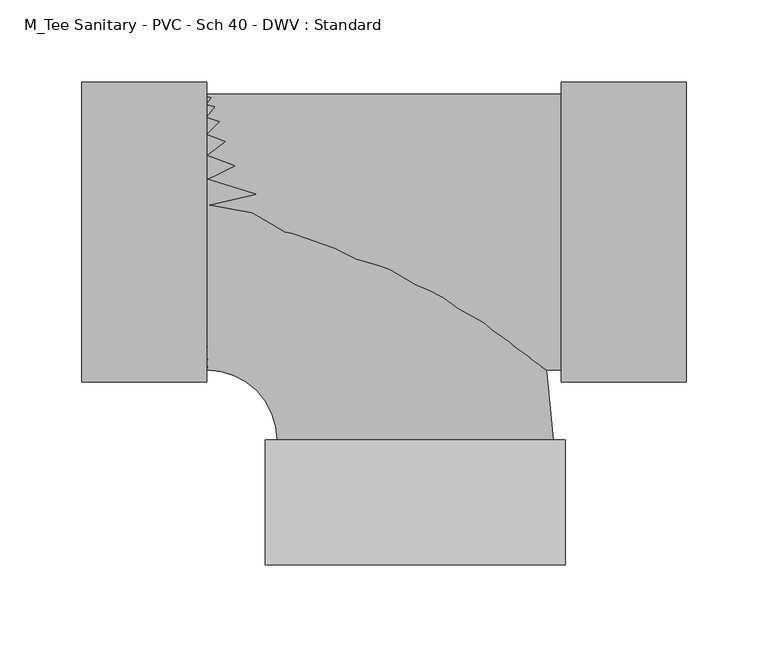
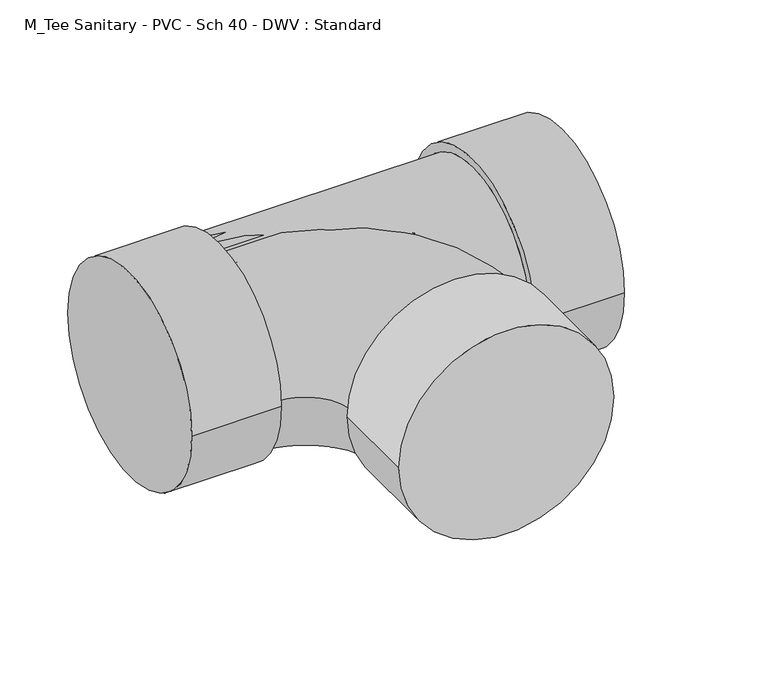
"""IFC4 building model written with IfcOpenShell, lengths in millimetres: pipe fitting geometry, M_Tee Sanitary - PVC - Sch 40 - DWV : Standard."""

from ifc_helpers import new_model, si_unit, point, frame, origin, place, context, project, spatial, circle_curve, ellipse_curve, trimmed, source, transform, mapped, element, save
from ifc_brep_helpers import plane_surface, cylinder_surface, revolved_surface, advanced_brep


def m_tee_sanitary_pvc_sch_40_dwv_standard_f4612a07(model_context):
    return source(origin(), model_context, "Body", "AdvancedBrep", [
        advanced_brep(
        [(-127.0, -84.1375, 0.0), (-127.0, 84.1375, 0.0), (-84.1375, -127.0, 0.0), (84.1375, -127.0, 0.0), (91.5543, -203.2, 0.0), (-91.5543, -203.2, 0.0), (91.5543, -127.0, 0.0), (-91.5543, -127.0, 0.0)],
        [
            (0, 1, circle_curve(frame((-127.0, 0.0, 0.0), z_axis=(-1.0, 0.0, 0.0), x_axis=(0.0, 1.0, 0.0)), 84.1375)),
            (1, 0, circle_curve(frame((-127.0, 0.0, 0.0), z_axis=(-1.0, 0.0, 0.0), x_axis=(0.0, 1.0, 0.0)), 84.1375)),
            (0, 2, circle_curve(frame((-127.0, -127.0, 0.0), z_axis=(0.0, 0.0, -1.0), x_axis=(0.0, 1.0, 0.0)), 42.8625)),
            (2, 3, circle_curve(frame((0.0, -127.0, 0.0), z_axis=(-1.0287938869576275e-12, 1.0, 0.0), x_axis=(1.0, 1.0287938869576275e-12, 0.0)), 84.1375)),
            (3, 1, circle_curve(frame((-127.0, -127.0, 0.0), z_axis=(0.0, 0.0, 1.0), x_axis=(0.0, 1.0, 0.0)), 211.1375)),
            (3, 2, circle_curve(frame((0.0, -127.0, 0.0), z_axis=(-1.0285718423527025e-12, 1.0, 0.0), x_axis=(1.0, 1.0285718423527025e-12, 0.0)), 84.1375)),
            (4, 5, circle_curve(frame((0.0, -203.2, 0.0), z_axis=(0.0, -1.0, 0.0), x_axis=(-1.0, 0.0, 0.0)), 91.5543)),
            (5, 4, circle_curve(frame((0.0, -203.2, 0.0), z_axis=(0.0, -1.0, 0.0), x_axis=(-1.0, 0.0, 0.0)), 91.5543)),
            (6, 7, circle_curve(frame((0.0, -127.0, 0.0), z_axis=(0.0, 1.0, 0.0), x_axis=(-1.0, 0.0, 0.0)), 91.5543)),
            (7, 6, circle_curve(frame((0.0, -127.0, 0.0), z_axis=(0.0, 1.0, 0.0), x_axis=(-1.0, 0.0, 0.0)), 91.5543)),
            (4, 6),
            (7, 5),
        ],
        [
            plane_surface(frame((-127.0, 0.0, 0.0), z_axis=(-1.0, 0.0, 0.0), x_axis=(0.0, 0.0, 1.0))),
            revolved_surface(trimmed(ellipse_curve(frame((-127.0, 0.0, 0.0), z_axis=(-1.0, 0.0, 0.0), x_axis=(0.0, 1.0, 0.0)), 84.1375, 84.1375), [point((-127.0, -84.1375, 0.0))], [point((-127.0, 84.1375, 0.0))], True, "CARTESIAN"), (-127.0, -127.0, 0.0), (0.0, 0.0, -1.0)),
            revolved_surface(trimmed(ellipse_curve(frame((-127.0, 0.0, 0.0), z_axis=(-1.0, 0.0, 0.0), x_axis=(0.0, 1.0, 0.0)), 84.1375, 84.1375), [point((-127.0, 84.1375, 0.0))], [point((-127.0, -84.1375, 0.0))], True, "CARTESIAN"), (-127.0, -127.0, 0.0), (0.0, 0.0, -1.0)),
            plane_surface(frame((0.0, -203.2, 0.0), z_axis=(0.0, -1.0, 0.0), x_axis=(0.0, 0.0, 1.0))),
            plane_surface(frame((0.0, -127.0, 0.0), z_axis=(0.0, 1.0, 0.0), x_axis=(0.0, 0.0, 1.0))),
            cylinder_surface(frame((0.0, -203.2, 0.0), z_axis=(0.0, -1.0, 0.0), x_axis=(-1.0, 0.0, 0.0)), 91.5543),
        ],
        [
            (0, [[1, 2]]),
            (1, [[-1, 3, 4, 5]]),
            (2, [[-2, -5, 6, -3]]),
            (3, [[7, 8]]),
            (4, [[9, 10], [-4, -6]]),
            (5, [[-7, 11, -10, 12]]),
            (5, [[-8, -12, -9, -11]]),
        ],
    ),
        advanced_brep(
        [(-127.0, -84.1375, 0.0), (88.9, -84.1375, 0.0), (88.9, 84.1375, 0.0), (-127.0, 84.1375, 0.0), (88.9, -91.5543, 0.0), (88.9, 91.5543, 0.0), (165.1, -91.5543, 0.0), (165.1, 91.5543, 0.0), (-203.2, -91.5543, 0.0), (-203.2, 91.5543, 0.0), (-127.0, -91.5543, 0.0), (-127.0, 91.5543, 0.0)],
        [
            (0, 1),
            (1, 2, circle_curve(frame((88.9, 0.0, 0.0), z_axis=(-1.0, 0.0, 0.0), x_axis=(0.0, 1.0, 0.0)), 84.1375)),
            (2, 3),
            (3, 0, circle_curve(frame((-127.0, 0.0, 0.0), z_axis=(1.0, 0.0, 0.0), x_axis=(0.0, 1.0, 0.0)), 84.1375)),
            (0, 3, circle_curve(frame((-127.0, 0.0, 0.0), z_axis=(1.0, 0.0, 0.0), x_axis=(0.0, 1.0, 0.0)), 84.1375)),
            (2, 1, circle_curve(frame((88.9, 0.0, 0.0), z_axis=(-1.0, 0.0, 0.0), x_axis=(0.0, 1.0, 0.0)), 84.1375)),
            (4, 5, circle_curve(frame((88.9, 0.0, 0.0), z_axis=(-1.0, 0.0, 0.0), x_axis=(0.0, 1.0, 0.0)), 91.5543)),
            (5, 4, circle_curve(frame((88.9, 0.0, 0.0), z_axis=(-1.0, 0.0, 0.0), x_axis=(0.0, 1.0, 0.0)), 91.5543)),
            (6, 7, circle_curve(frame((165.1, 0.0, 0.0), z_axis=(1.0, 0.0, 0.0), x_axis=(0.0, 1.0, 0.0)), 91.5543)),
            (7, 6, circle_curve(frame((165.1, 0.0, 0.0), z_axis=(1.0, 0.0, 0.0), x_axis=(0.0, 1.0, 0.0)), 91.5543)),
            (4, 6),
            (7, 5),
            (8, 9, circle_curve(frame((-203.2, 0.0, 0.0), z_axis=(-1.0, 0.0, 0.0), x_axis=(0.0, 1.0, 0.0)), 91.5543)),
            (9, 8, circle_curve(frame((-203.2, 0.0, 0.0), z_axis=(-1.0, 0.0, 0.0), x_axis=(0.0, 1.0, 0.0)), 91.5543)),
            (10, 11, circle_curve(frame((-127.0, 0.0, 0.0), z_axis=(1.0, 0.0, 0.0), x_axis=(0.0, 1.0, 0.0)), 91.5543)),
            (11, 10, circle_curve(frame((-127.0, 0.0, 0.0), z_axis=(1.0, 0.0, 0.0), x_axis=(0.0, 1.0, 0.0)), 91.5543)),
            (8, 10),
            (11, 9),
        ],
        [
            cylinder_surface(frame((-127.0, 0.0, 0.0), z_axis=(-1.0, 0.0, 0.0), x_axis=(0.0, 1.0, 0.0)), 84.1375),
            plane_surface(frame((88.9, 0.0, 0.0), z_axis=(-1.0, 0.0, 0.0), x_axis=(0.0, 0.0, 1.0))),
            plane_surface(frame((165.1, 0.0, 0.0), z_axis=(1.0, 0.0, 0.0), x_axis=(0.0, 0.0, 1.0))),
            cylinder_surface(frame((88.9, 0.0, 0.0), z_axis=(-1.0, 0.0, 0.0), x_axis=(0.0, 1.0, 0.0)), 91.5543),
            plane_surface(frame((-203.2, 0.0, 0.0), z_axis=(-1.0, 0.0, 0.0), x_axis=(0.0, 0.0, 1.0))),
            plane_surface(frame((-127.0, 0.0, 0.0), z_axis=(1.0, 0.0, 0.0), x_axis=(0.0, 0.0, 1.0))),
            cylinder_surface(frame((-203.2, 0.0, 0.0), z_axis=(-1.0, 0.0, 0.0), x_axis=(0.0, 1.0, 0.0)), 91.5543),
        ],
        [
            (0, [[1, 2, 3, 4]]),
            (0, [[-1, 5, -3, 6]]),
            (1, [[7, 8], [-2, -6]]),
            (2, [[9, 10]]),
            (3, [[-7, 11, -10, 12]]),
            (3, [[-8, -12, -9, -11]]),
            (4, [[13, 14]]),
            (5, [[15, 16], [-4, -5]]),
            (6, [[-13, 17, -16, 18]]),
            (6, [[-14, -18, -15, -17]]),
        ],
    ),
    ])


if __name__ == "__main__":
    model = new_model("IFC4")
    model_context = context("Model", 3, world=origin())
    ifc_project = project(units=[si_unit("LENGTHUNIT", "METRE", prefix="MILLI")], contexts=[model_context])
    site = spatial("IfcSite", under=ifc_project)
    building = spatial("IfcBuilding", under=site)
    placement = place(None, origin())
    m_tee_sanitary_pvc_sch_40_dwv_standard_shape = m_tee_sanitary_pvc_sch_40_dwv_standard_f4612a07(model_context)
    element("IfcPipeFitting", 1, ObjectType="M_Tee Sanitary - PVC - Sch 40 - DWV : Standard", at=placement, inside=building, context=model_context, shape_type="MappedRepresentation", body=[
        mapped(m_tee_sanitary_pvc_sch_40_dwv_standard_shape, transform((0.0, 0.0, 0.0), x_axis=(1.0, 0.0, 0.0), y_axis=(0.0, 1.0, 0.0), z_axis=(0.0, 0.0, 1.0))),
    ])
    save(model, "model.ifc")
